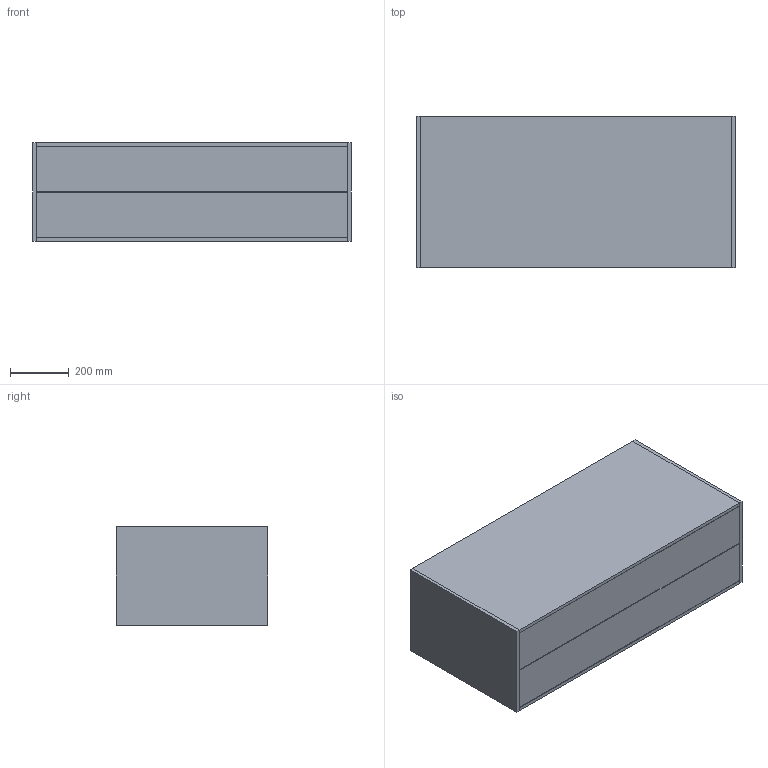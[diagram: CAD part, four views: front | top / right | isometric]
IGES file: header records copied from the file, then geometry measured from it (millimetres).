
Start section: Data from Parasolid IGES Translator 19.0.9, Copyright(c) 2006 Siemens PL M Software. All Rights Reserved.
Global section: file name: noorth-FJ-H 33,5 D 51,2 W 108_2014.igs; native system: By Siemens PLM Incorporated; preprocessor: XPlus GENERIC/IGES 19.0.9; author: Noname; organization: Noname; date: 20200507.120707; units: metre
Bounding box: 1080 x 512 x 335 mm (x, y, z)
Volume: 24203946 mm3; surface area: 4365246 mm2
Topology: 7 solids, 7 shells, 42 faces, 84 edges, 56 vertices
Faces by surface type: plane 42
